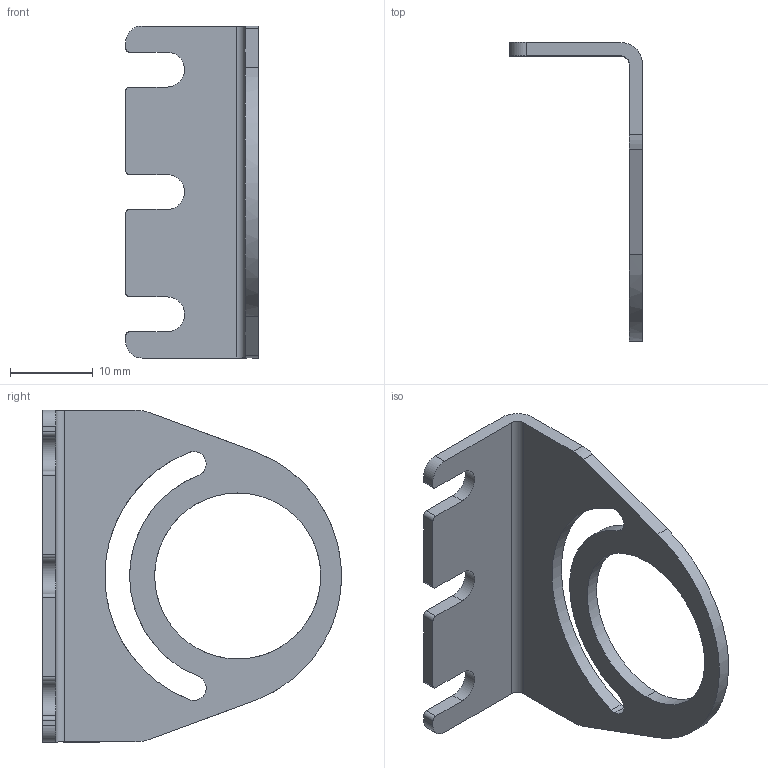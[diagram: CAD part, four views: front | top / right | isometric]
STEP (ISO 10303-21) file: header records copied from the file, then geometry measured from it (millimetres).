
FILE_DESCRIPTION (( 'STEP AP203' ), '1' );
FILE_NAME ('ACC401.STEP', '2023-09-15T05:27:46', ( '' ), ( '' ), 'SwSTEP 2.0', 'SolidWorks 2016', '' );
FILE_SCHEMA (( 'CONFIG_CONTROL_DESIGN' ));
Length unit declared in the file: millimetre
Products named in the file (1): ACC401
Bounding box: 16 x 35.99 x 40 mm (x, y, z)
Volume: 1946.1 mm3; surface area: 2968.5 mm2
Topology: 1 solids, 1 shells, 41 faces, 121 edges, 82 vertices
Faces by surface type: cylinder 23, plane 18
Entity records: 1946 total; most frequent: CARTESIAN_POINT 843, ORIENTED_EDGE 242, DIRECTION 165, EDGE_CURVE 121, VERTEX_POINT 82, VECTOR 73, LINE 73, AXIS2_PLACEMENT_3D 46
